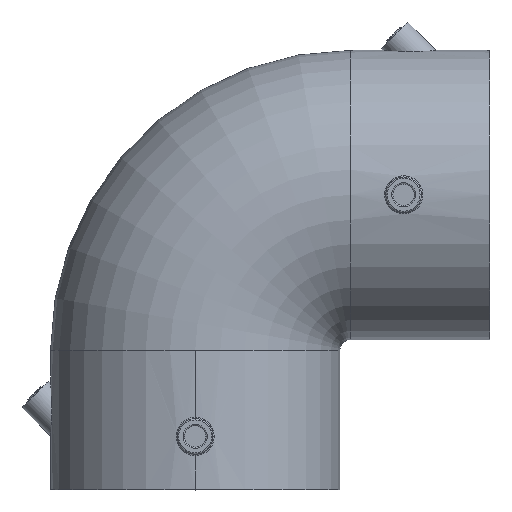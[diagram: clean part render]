
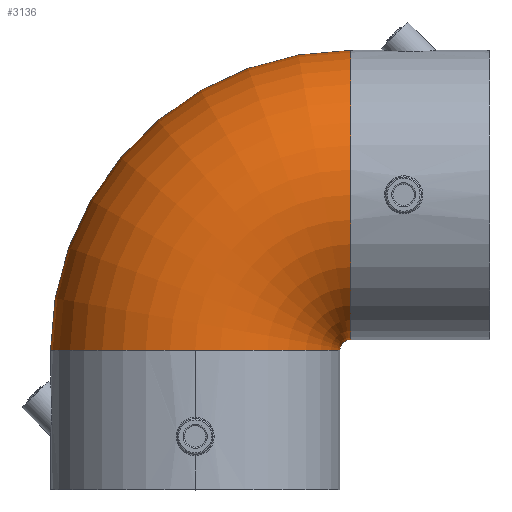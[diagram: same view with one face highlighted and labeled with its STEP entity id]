
A CAD part, top view. The second image highlights one B-rep face of the part: STEP entity #3136.
In plain terms, the highlighted toroidal (fillet/blend) face has major radius 58 mm and minor radius 54 mm.
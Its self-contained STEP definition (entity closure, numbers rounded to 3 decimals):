
#20 = FACE_OUTER_BOUND ( 'NONE', #949, .T. ) ;
#55 = DIRECTION ( 'NONE',  ( 0., 0., 1. ) ) ;
#61 = CARTESIAN_POINT ( 'NONE',  ( -52., -58., 0. ) ) ;
#64 = DIRECTION ( 'NONE',  ( 1., 0., 0. ) ) ;
#430 = EDGE_CURVE ( 'NONE', #1576, #1436, #3068, .T. ) ;
#431 = EDGE_CURVE ( 'NONE', #1463, #1572, #3066, .T. ) ;
#432 = EDGE_CURVE ( 'NONE', #1555, #1572, #3047, .T. ) ;
#433 = EDGE_CURVE ( 'NONE', #1436, #1555, #3073, .T. ) ;
#434 = EDGE_CURVE ( 'NONE', #1576, #1463, #3060, .T. ) ;
#949 = EDGE_LOOP ( 'NONE', ( #1715, #1716, #1309, #1314, #1770 ) ) ;
#1000 = CARTESIAN_POINT ( 'NONE',  ( -52., 54., 0. ) ) ;
#1002 = CARTESIAN_POINT ( 'NONE',  ( -56., -58., 0. ) ) ;
#1012 = CARTESIAN_POINT ( 'NONE',  ( -110., -58., 54. ) ) ;
#1073 = CARTESIAN_POINT ( 'NONE',  ( -52., -54., 0. ) ) ;
#1091 = CARTESIAN_POINT ( 'NONE',  ( -164., -58., 0. ) ) ;
#1309 = ORIENTED_EDGE ( 'NONE', *, *, #433, .T. ) ;
#1314 = ORIENTED_EDGE ( 'NONE', *, *, #432, .T. ) ;
#1332 = CARTESIAN_POINT ( 'NONE',  ( -52., -58., 0. ) ) ;
#1370 = DIRECTION ( 'NONE',  ( 0., 0., -1. ) ) ;
#1372 = DIRECTION ( 'NONE',  ( 1., 0., 0. ) ) ;
#1375 = CARTESIAN_POINT ( 'NONE',  ( -52., 0., 0. ) ) ;
#1380 = DIRECTION ( 'NONE',  ( 0., 0., -1. ) ) ;
#1383 = DIRECTION ( 'NONE',  ( 0., 1., 0. ) ) ;
#1385 = CARTESIAN_POINT ( 'NONE',  ( -110., -58., 0. ) ) ;
#1389 = DIRECTION ( 'NONE',  ( 0., 0., -1. ) ) ;
#1391 = DIRECTION ( 'NONE',  ( 0., 1., 0. ) ) ;
#1393 = CARTESIAN_POINT ( 'NONE',  ( -110., -58., 0. ) ) ;
#1399 = DIRECTION ( 'NONE',  ( 1., 0., 0. ) ) ;
#1401 = DIRECTION ( 'NONE',  ( 0., 0., 1. ) ) ;
#1403 = CARTESIAN_POINT ( 'NONE',  ( -52., -58., 0. ) ) ;
#1407 = DIRECTION ( 'NONE',  ( 1., 0., 0. ) ) ;
#1410 = DIRECTION ( 'NONE',  ( 0., 0., 1. ) ) ;
#1436 = VERTEX_POINT ( 'NONE', #1091 ) ;
#1463 = VERTEX_POINT ( 'NONE', #1073 ) ;
#1555 = VERTEX_POINT ( 'NONE', #1012 ) ;
#1572 = VERTEX_POINT ( 'NONE', #1002 ) ;
#1576 = VERTEX_POINT ( 'NONE', #1000 ) ;
#1715 = ORIENTED_EDGE ( 'NONE', *, *, #434, .F. ) ;
#1716 = ORIENTED_EDGE ( 'NONE', *, *, #430, .T. ) ;
#1770 = ORIENTED_EDGE ( 'NONE', *, *, #431, .F. ) ;
#2723 = AXIS2_PLACEMENT_3D ( 'NONE', #61, #55, #64 ) ;
#2726 = TOROIDAL_SURFACE ( 'NONE', #2723, 58., 54. ) ;
#2941 = AXIS2_PLACEMENT_3D ( 'NONE', #1332, #1410, #1407 ) ;
#3034 = AXIS2_PLACEMENT_3D ( 'NONE', #1393, #1391, #1389 ) ;
#3047 = CIRCLE ( 'NONE', #3034, 54. ) ;
#3060 = CIRCLE ( 'NONE', #3076, 54. ) ;
#3065 = AXIS2_PLACEMENT_3D ( 'NONE', #1385, #1383, #1380 ) ;
#3066 = CIRCLE ( 'NONE', #3072, 4. ) ;
#3068 = CIRCLE ( 'NONE', #2941, 112. ) ;
#3072 = AXIS2_PLACEMENT_3D ( 'NONE', #1403, #1401, #1399 ) ;
#3073 = CIRCLE ( 'NONE', #3065, 54. ) ;
#3076 = AXIS2_PLACEMENT_3D ( 'NONE', #1375, #1372, #1370 ) ;
#3136 = ADVANCED_FACE ( 'NONE', ( #20 ), #2726, .T. ) ;
